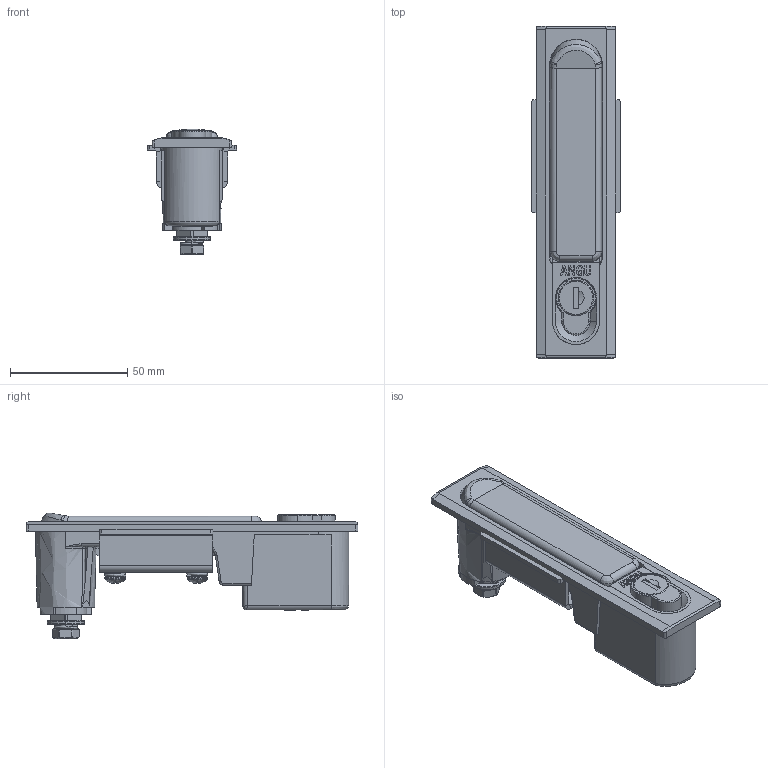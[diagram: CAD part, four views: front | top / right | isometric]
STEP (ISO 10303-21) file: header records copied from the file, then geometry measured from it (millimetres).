
FILE_DESCRIPTION(/* description */ (''),/* implementation_level */ '2;1');
FILE_NAME(/* name */ 'A-490-3-S 平面按壓式防水把手',/* time_stamp */ '2023-05-09T14:40:50+08:00',/* author */ (''),/* organization */ (''),/* preprocessor_version */ 'ST-DEVELOPER v16.5',/* originating_system */ 'Rhino 7.28',/* authorisation */ '');
FILE_SCHEMA (('CONFIG_CONTROL_DESIGN'));
Length unit declared in the file: millimetre
Products named in the file (3): Document; 圖塊 02; 圖塊 01
Assembly tree (2 placements, depth 2):
  Document
    圖塊 02
    圖塊 01
Bounding box: 37.94 x 141.35 x 53.54 mm (x, y, z)
Volume: 73973.8 mm3; surface area: 59045.6 mm2
Topology: 14 solids, 14 shells, 1621 faces, 4399 edges, 2866 vertices
Faces by surface type: plane 772, bspline 455, cylinder 394
Entity records: 89831 total; most frequent: CARTESIAN_POINT 61382, ORIENTED_EDGE 8778, EDGE_CURVE 4389, B_SPLINE_CURVE_WITH_KNOTS 3302, VERTEX_POINT 2866, EDGE_LOOP 1739, ADVANCED_FACE 1621, FACE_OUTER_BOUND 1621
